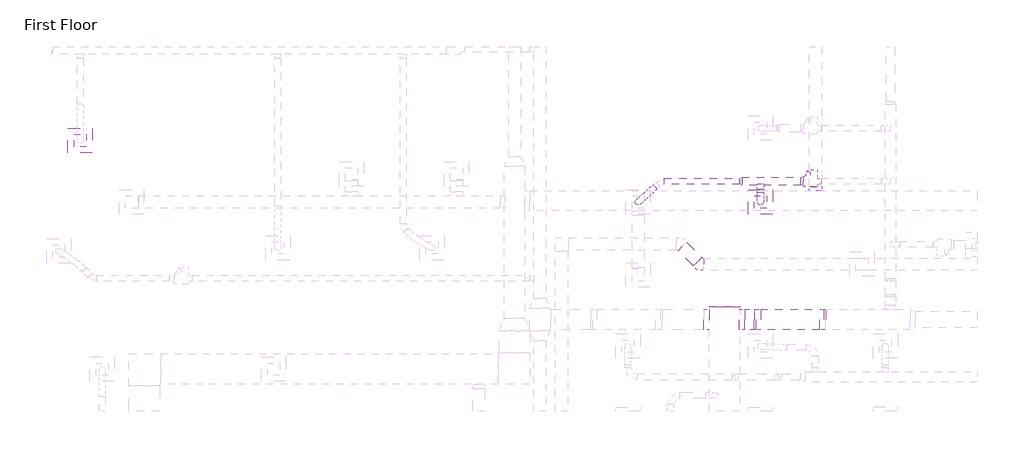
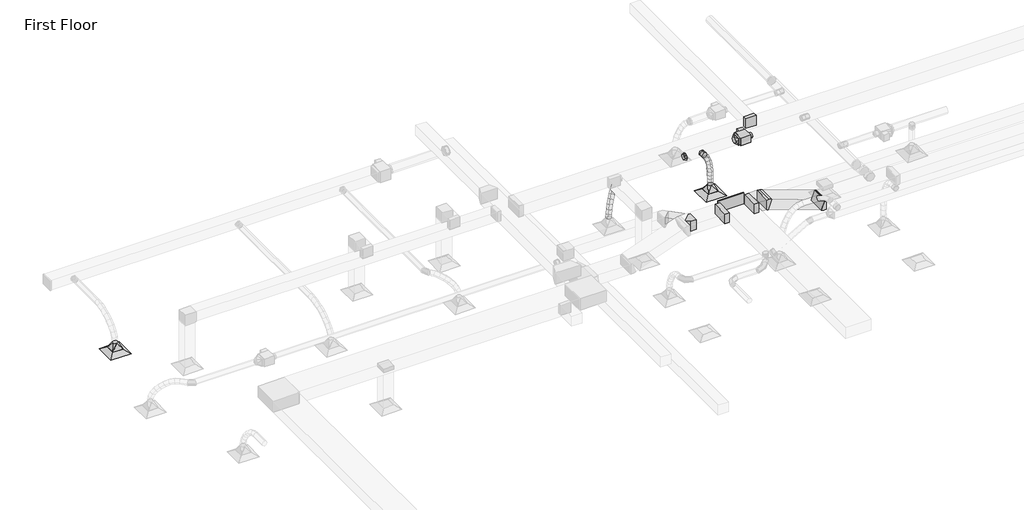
# One storey, part 41 of 61: 12 duct fittings, 8 duct segments, 2 air terminals, 1 proxy.
"""IFC4 building model written with IfcOpenShell, lengths in millimetres."""

from ifc_helpers import new_model, si_unit, point, frame, frame_2d, origin, place, context, project, spatial, polyline, circle_curve, ellipse_curve, trimmed, segment, composite_curve, outline, extrude, transform, mapped, element, save
from ifc_brep_helpers import plane_surface, cylinder_surface, advanced_brep
from components import m_exhaust_grill_er_600_x_600_face_300_x_300_connection_ff221211, m_vav_unit_single_duct_150_mm_ffdab17b, m_rectangular_elbow_mitered_standard_b81e202c, m_rectangular_elbow_mitered_standard_04b63b93, m_rectangular_endcap_standard_e95da84c, m_rectangular_takeoff_standard_b44bfa45, m_rectangular_takeoff_standard_494111d8, m_rectangular_takeoff_standard_a06ee614, m_rectangular_to_round_transition_angle_45_degree_8f201c83, m_rectangular_to_round_transition_angle_45_degree_1b7ae117, m_round_takeoff_standard_e1559ea3, m_round_transition_angle_45_degree_6d7b59ce

model = new_model("IFC4")

# Units and contexts
model_context = context("Model", 3, world=origin())
ifc_project = project(units=[si_unit("LENGTHUNIT", "METRE", prefix="MILLI")], contexts=[model_context])

# Site, building, storey
site = spatial("IfcSite", under=ifc_project)
building = spatial("IfcBuilding", under=site)
storey = spatial("IfcBuildingStorey", under=building, Name="First Floor", Elevation=0.0)

# Air terminals
placement = place(None, origin())
m_exhaust_grill_er_600_x_600_face_300_x_300_connection_shape = m_exhaust_grill_er_600_x_600_face_300_x_300_connection_ff221211(model_context)
element("IfcAirTerminal", 1, ObjectType="M_Supply Diffuser : SD-600 x 600 Face 300 x 300 Connection", at=placement, inside=storey, context=model_context, shape_type="MappedRepresentation", body=[
    mapped(m_exhaust_grill_er_600_x_600_face_300_x_300_connection_shape, transform((-50782.0764133, 48691.5172332, 2680.0), x_axis=(1.0, 0.0, 0.0), y_axis=(0.0, 1.0, 0.0), z_axis=(0.0, 0.0, 1.0))),
])
element("IfcAirTerminal", 2, ObjectType="M_Supply Diffuser : SD-600 x 600 Face 300 x 300 Connection", at=placement, inside=storey, context=model_context, shape_type="MappedRepresentation", body=[
    mapped(m_exhaust_grill_er_600_x_600_face_300_x_300_connection_shape, transform((-34106.7085824, 47182.8147474, 2680.0), x_axis=(1.0, 0.0, 0.0), y_axis=(0.0, 1.0, 0.0), z_axis=(0.0, 0.0, 1.0))),
])

# Proxy
m_vav_unit_single_duct_150_mm_shape = m_vav_unit_single_duct_150_mm_ffdab17b(model_context)
element("IfcBuildingElementProxy", 3, Name="M_VAV Unit - Single Duct : 150 mm", ObjectType="M_VAV Unit - Single Duct : 150 mm", at=placement, inside=storey, context=model_context, shape_type="MappedRepresentation", body=[
    mapped(m_vav_unit_single_duct_150_mm_shape, transform((-32714.1170835, 47690.9394014, 3550.1), x_axis=(-1.0000000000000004, 0.0, 0.0), y_axis=(0.0, -1.0000000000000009, 0.0), z_axis=(0.0, 0.0, 1.0000000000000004))),
])

# Duct fittings
m_rectangular_elbow_mitered_standard_shape = m_rectangular_elbow_mitered_standard_b81e202c(model_context)
element("IfcDuctFitting", 4, ObjectType="M_Rectangular Elbow - Mitered : Standard", at=placement, inside=storey, context=model_context, shape_type="MappedRepresentation", body=[
    mapped(m_rectangular_elbow_mitered_standard_shape, transform((-35586.3948532, 45658.3786762, 3200.0), x_axis=(0.7071067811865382, -0.7071067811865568, 0.0), y_axis=(0.7071067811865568, 0.7071067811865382, 0.0), z_axis=(0.0, 0.0, 1.0))),
])
m_rectangular_elbow_mitered_standard_2_shape = m_rectangular_elbow_mitered_standard_04b63b93(model_context)
element("IfcDuctFitting", 5, ObjectType="M_Rectangular Elbow - Mitered : Standard", at=placement, inside=storey, context=model_context, shape_type="MappedRepresentation", body=[
    mapped(m_rectangular_elbow_mitered_standard_2_shape, transform((-32554.8277616, 44299.674982, 3659.6), x_axis=(-1.0, 0.0, 0.0), y_axis=(0.0, 0.0, 1.0), z_axis=(0.0, 1.0, 0.0))),
])
element("IfcDuctFitting", 6, ObjectType="M_Rectangular Elbow - Mitered : Standard", at=placement, inside=storey, context=model_context, shape_type="MappedRepresentation", body=[
    mapped(m_rectangular_elbow_mitered_standard_2_shape, transform((-34203.0394655, 44299.674982, 4259.5), x_axis=(-0.9396926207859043, 0.0, 0.34202014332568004), y_axis=(-0.34202014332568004, 0.0, -0.9396926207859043), z_axis=(0.0, -1.0, 0.0))),
])
m_rectangular_endcap_standard_shape = m_rectangular_endcap_standard_e95da84c(model_context)
element("IfcDuctFitting", 7, ObjectType="M_Rectangular Endcap : Standard", at=placement, inside=storey, context=model_context, shape_type="MappedRepresentation", body=[
    mapped(m_rectangular_endcap_standard_shape, transform((-34991.1904063, 44599.674982, 4259.5), x_axis=(0.0, 1.0, 0.0), y_axis=(-1.0, 0.0, 0.0), z_axis=(0.0, 0.0, 1.0))),
])
m_rectangular_takeoff_standard_shape = m_rectangular_takeoff_standard_b44bfa45(model_context)
element("IfcDuctFitting", 8, ObjectType="M_Rectangular Takeoff : Standard", at=placement, inside=storey, context=model_context, shape_type="MappedRepresentation", body=[
    mapped(m_rectangular_takeoff_standard_shape, transform((-32756.4805906, 47461.3321421, 4259.5), x_axis=(0.0, 1.0, 0.0), y_axis=(1.0, 0.0, 0.0), z_axis=(0.0, 0.0, -1.0))),
])
m_rectangular_takeoff_standard_2_shape = m_rectangular_takeoff_standard_494111d8(model_context)
element("IfcDuctFitting", 9, ObjectType="M_Rectangular Takeoff : Standard", at=placement, inside=storey, context=model_context, shape_type="MappedRepresentation", body=[
    mapped(m_rectangular_takeoff_standard_2_shape, transform((-34616.1904063, 44299.674982, 4259.5), x_axis=(1.0, 0.0, 0.0), y_axis=(0.0, -1.0, 0.0), z_axis=(0.0, 0.0, -1.0))),
])
m_rectangular_takeoff_standard_3_shape = m_rectangular_takeoff_standard_a06ee614(model_context)
element("IfcDuctFitting", 10, ObjectType="M_Rectangular Takeoff : Standard", at=placement, inside=storey, context=model_context, shape_type="MappedRepresentation", body=[
    mapped(m_rectangular_takeoff_standard_3_shape, transform((-35366.1904063, 44299.674982, 4259.5), x_axis=(-1.0, 0.0, 0.0), y_axis=(0.0, 1.0, 0.0), z_axis=(0.0, 0.0, -1.0))),
])
m_rectangular_to_round_transition_angle_45_degree_shape = m_rectangular_to_round_transition_angle_45_degree_8f201c83(model_context)
element("IfcDuctFitting", 11, ObjectType="M_Rectangular to Round Transition - Angle : 45 Degree", at=placement, inside=storey, context=model_context, shape_type="MappedRepresentation", body=[
    mapped(m_rectangular_to_round_transition_angle_45_degree_shape, transform((-50782.0764133, 48691.5172332, 2781.6), x_axis=(0.0, 0.0, 1.0), y_axis=(1.0, 0.0, 0.0), z_axis=(0.0, 1.0, 0.0))),
])
element("IfcDuctFitting", 12, ObjectType="M_Rectangular to Round Transition - Angle : 45 Degree", at=placement, inside=storey, context=model_context, shape_type="MappedRepresentation", body=[
    mapped(m_rectangular_to_round_transition_angle_45_degree_shape, transform((-34106.7085824, 47182.8147474, 2781.6), x_axis=(0.0, 0.0, 1.0), y_axis=(1.0, 0.0, 0.0), z_axis=(0.0, 1.0, 0.0))),
])
m_rectangular_to_round_transition_angle_45_degree_2_shape = m_rectangular_to_round_transition_angle_45_degree_1b7ae117(model_context)
element("IfcDuctFitting", 13, ObjectType="M_Rectangular to Round Transition - Angle : 45 Degree", at=placement, inside=storey, context=model_context, shape_type="MappedRepresentation", body=[
    mapped(m_rectangular_to_round_transition_angle_45_degree_2_shape, transform((-33056.9170835, 47690.9394014, 3669.15), x_axis=(-1.0, 0.0, 0.0), y_axis=(0.0, -1.0, 0.0), z_axis=(0.0, 0.0, 1.0))),
])
m_round_takeoff_standard_shape = m_round_takeoff_standard_e1559ea3(model_context)
element("IfcDuctFitting", 14, ObjectType="M_Round Takeoff : Standard", at=placement, inside=storey, context=model_context, shape_type="MappedRepresentation", body=[
    mapped(m_round_takeoff_standard_shape, transform((-34106.7085824, 47590.9394014, 3669.2), x_axis=(0.0, -1.0, 0.0), y_axis=(-1.0, 0.0, 0.0), z_axis=(0.0, 0.0, -1.0))),
])
m_round_transition_angle_45_degree_shape = m_round_transition_angle_45_degree_6d7b59ce(model_context)
element("IfcDuctFitting", 15, ObjectType="M_Round Transition - Angle : 45 Degree", at=placement, inside=storey, context=model_context, shape_type="MappedRepresentation", body=[
    mapped(m_round_transition_angle_45_degree_shape, transform((-34556.9170835, 47690.9394014, 3669.2), x_axis=(-1.0, 0.0, 0.0), y_axis=(0.0, -1.0, 0.0), z_axis=(0.0, 0.0, 1.0))),
])

# Duct segments
element("IfcDuctSegment", 16, ObjectType="Flex - Round", at=placement, inside=storey, context=model_context, shape_type="AdvancedBrep", body=[
    advanced_brep(
    [(-36645.8787764, 47495.9178238, 3669.2), (-36689.5320936, 47558.1370012, 3595.2191791), (-36750.798103, 47603.1182665, 3669.2), (-36707.1447858, 47540.8990892, 3743.1808209), (-36724.2138554, 47419.2496354, 3650.9433013), (-36759.572757, 47489.5867317, 3578.8955689), (-36828.187112, 47527.3760167, 3651.1637915), (-36792.8282104, 47457.0389204, 3723.2115238), (-37052.7680984, 47127.6708785, 2962.2040431), (-37158.455536, 47132.1876962, 2969.9347541), (-37154.4330443, 47237.9586163, 2963.1279913), (-37048.7456067, 47233.4417986, 2955.3972802), (-36799.2216585, 47348.6524833, 3600.0730057), (-36820.9261826, 47431.8410448, 3537.2856728), (-36901.7440227, 47458.1444408, 3601.2774911), (-36880.0394986, 47374.9558794, 3664.064824), (-36868.2221398, 47285.8629318, 3523.1146906), (-36880.6561104, 47377.4875777, 3470.6670852), (-36969.9559173, 47396.0724929, 3525.1987105), (-36957.5219467, 47304.447847, 3577.6463159), (-36929.2270396, 47231.9571342, 3426.2754661), (-36935.4224664, 47329.0943486, 3383.7309301), (-37030.618092, 47342.4695379, 3428.9035283), (-37024.4226652, 47245.3323235, 3471.4480643), (-36980.2240833, 47188.0437851, 3315.680419), (-36982.0549487, 47288.9393056, 3282.6011152), (-37081.5498577, 47298.6123993, 3318.4500466), (-37079.7189923, 47197.7168788, 3351.5293504), (-37019.170519, 47155.2644973, 3197.4496226), (-37017.8267688, 47258.8319347, 3174.0075891), (-37120.6010028, 47265.7449828, 3199.9013808), (-37121.9447529, 47162.1775454, 3223.3434143), (-37044.0137336, 47134.7729014, 3077.7364736), (-37040.4360887, 47240.1829372, 3065.0590123), (-37145.6311766, 47245.0991761, 3079.2873231), (-37149.2088215, 47139.6891403, 3091.9647844)],
    [
        (0, 1, circle_curve(frame((-36698.3384397, 47549.5180452, 3669.2), z_axis=(0.704957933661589, 0.6899571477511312, 0.16429682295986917), x_axis=(0.6994621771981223, -0.7146696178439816, 0.0)), 75.0)),
        (1, 2, circle_curve(frame((-36698.3384397, 47549.5180452, 3669.2), z_axis=(0.704957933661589, 0.6899571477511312, 0.16429682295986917), x_axis=(0.6994621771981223, -0.7146696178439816, 0.0)), 75.0)),
        (2, 3, circle_curve(frame((-36698.3384397, 47549.5180452, 3669.2), z_axis=(0.704957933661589, 0.6899571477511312, 0.16429682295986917), x_axis=(0.6994621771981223, -0.7146696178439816, 0.0)), 75.0)),
        (3, 0, circle_curve(frame((-36698.3384397, 47549.5180452, 3669.2), z_axis=(0.704957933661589, 0.6899571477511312, 0.16429682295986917), x_axis=(0.6994621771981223, -0.7146696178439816, 0.0)), 75.0)),
        (0, 4),
        (4, 5, ellipse_curve(frame((-36776.2004837, 47473.3128261, 3651.0535464), z_axis=(0.6863497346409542, 0.6593613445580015, 0.30686586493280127), x_axis=(0.17751444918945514, 0.2572962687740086, -0.949888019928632)), 75.8191616, 75.0)),
        (5, 1),
        (5, 6, ellipse_curve(frame((-36776.2004837, 47473.3128261, 3651.0535464), z_axis=(0.6863497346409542, 0.6593613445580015, 0.30686586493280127), x_axis=(0.17751444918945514, 0.2572962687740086, -0.949888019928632)), 75.8191616, 75.0)),
        (6, 2),
        (6, 7, ellipse_curve(frame((-36776.2004837, 47473.3128261, 3651.0535464), z_axis=(0.6863497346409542, 0.6593613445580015, 0.30686586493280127), x_axis=(0.17751444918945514, 0.2572962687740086, -0.949888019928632)), 75.8191616, 75.0)),
        (7, 3),
        (7, 4, ellipse_curve(frame((-36776.2004837, 47473.3128261, 3651.0535464), z_axis=(0.6863497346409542, 0.6593613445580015, 0.30686586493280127), x_axis=(0.17751444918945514, 0.2572962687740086, -0.949888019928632)), 75.8191616, 75.0)),
        (8, 9, circle_curve(frame((-37103.6005714, 47182.8147474, 2962.6660172), z_axis=(-0.07541594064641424, -0.061181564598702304, -0.9952734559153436), x_axis=(0.6777663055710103, -0.7352515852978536, -0.006159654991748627)), 75.0)),
        (9, 10, circle_curve(frame((-37103.6005714, 47182.8147474, 2962.6660172), z_axis=(-0.07541594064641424, -0.061181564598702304, -0.9952734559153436), x_axis=(0.6777663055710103, -0.7352515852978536, -0.006159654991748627)), 75.0)),
        (10, 11, circle_curve(frame((-37103.6005714, 47182.8147474, 2962.6660172), z_axis=(-0.07541594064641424, -0.061181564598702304, -0.9952734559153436), x_axis=(0.6777663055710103, -0.7352515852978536, -0.006159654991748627)), 75.0)),
        (11, 8, circle_curve(frame((-37103.6005714, 47182.8147474, 2962.6660172), z_axis=(-0.07541594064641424, -0.061181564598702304, -0.9952734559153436), x_axis=(0.6777663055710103, -0.7352515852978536, -0.006159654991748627)), 75.0)),
        (4, 12),
        (12, 13, ellipse_curve(frame((-36850.4828406, 47403.3984621, 3600.6752484), z_axis=(0.6158448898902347, 0.5706683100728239, 0.5432059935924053), x_axis=(0.3566835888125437, 0.41281763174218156, -0.8380682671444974)), 75.5050231, 75.0)),
        (13, 5),
        (13, 14, ellipse_curve(frame((-36850.4828406, 47403.3984621, 3600.6752484), z_axis=(0.6158448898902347, 0.5706683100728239, 0.5432059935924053), x_axis=(0.3566835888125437, 0.41281763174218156, -0.8380682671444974)), 75.5050231, 75.0)),
        (14, 6),
        (14, 15, ellipse_curve(frame((-36850.4828406, 47403.3984621, 3600.6752484), z_axis=(0.6158448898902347, 0.5706683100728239, 0.5432059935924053), x_axis=(0.3566835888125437, 0.41281763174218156, -0.8380682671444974)), 75.5050231, 75.0)),
        (15, 7),
        (15, 12, ellipse_curve(frame((-36850.4828406, 47403.3984621, 3600.6752484), z_axis=(0.6158448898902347, 0.5706683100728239, 0.5432059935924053), x_axis=(0.3566835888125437, 0.41281763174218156, -0.8380682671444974)), 75.5050231, 75.0)),
        (12, 16),
        (16, 17, ellipse_curve(frame((-36919.0890286, 47340.9677124, 3524.1567006), z_axis=(0.5285678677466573, 0.4746088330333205, 0.7038199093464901), x_axis=(0.48523888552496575, 0.5113761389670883, -0.7092514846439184)), 75.3126265, 75.0)),
        (17, 13),
        (17, 18, ellipse_curve(frame((-36919.0890286, 47340.9677124, 3524.1567006), z_axis=(0.5285678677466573, 0.4746088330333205, 0.7038199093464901), x_axis=(0.48523888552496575, 0.5113761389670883, -0.7092514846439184)), 75.3126265, 75.0)),
        (18, 14),
        (18, 19, ellipse_curve(frame((-36919.0890286, 47340.9677124, 3524.1567006), z_axis=(0.5285678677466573, 0.4746088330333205, 0.7038199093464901), x_axis=(0.48523888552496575, 0.5113761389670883, -0.7092514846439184)), 75.3126265, 75.0)),
        (19, 15),
        (19, 16, ellipse_curve(frame((-36919.0890286, 47340.9677124, 3524.1567006), z_axis=(0.5285678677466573, 0.4746088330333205, 0.7038199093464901), x_axis=(0.48523888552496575, 0.5113761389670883, -0.7092514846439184)), 75.3126265, 75.0)),
        (16, 20),
        (20, 21, ellipse_curve(frame((-36979.9225658, 47287.213336, 3427.5894972), z_axis=(0.43933908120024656, 0.3837621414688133, 0.8122239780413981), x_axis=(0.5792404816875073, 0.5700714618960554, -0.5826654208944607)), 75.2187667, 75.0)),
        (21, 17),
        (21, 22, ellipse_curve(frame((-36979.9225658, 47287.213336, 3427.5894972), z_axis=(0.43933908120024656, 0.3837621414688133, 0.8122239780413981), x_axis=(0.5792404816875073, 0.5700714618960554, -0.5826654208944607)), 75.2187667, 75.0)),
        (22, 18),
        (22, 23, ellipse_curve(frame((-36979.9225658, 47287.213336, 3427.5894972), z_axis=(0.43933908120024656, 0.3837621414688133, 0.8122239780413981), x_axis=(0.5792404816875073, 0.5700714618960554, -0.5826654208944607)), 75.2187667, 75.0)),
        (23, 19),
        (23, 20, ellipse_curve(frame((-36979.9225658, 47287.213336, 3427.5894972), z_axis=(0.43933908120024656, 0.3837621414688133, 0.8122239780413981), x_axis=(0.5792404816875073, 0.5700714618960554, -0.5826654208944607)), 75.2187667, 75.0)),
        (20, 24),
        (24, 25, ellipse_curve(frame((-37030.8869705, 47243.3280922, 3317.0652328), z_axis=(0.3490941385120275, 0.2976546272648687, 0.888557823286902), x_axis=(0.6522423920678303, 0.6036472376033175, -0.45846469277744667)), 75.1846062, 75.0)),
        (25, 21),
        (25, 26, ellipse_curve(frame((-37030.8869705, 47243.3280922, 3317.0652328), z_axis=(0.3490941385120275, 0.2976546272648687, 0.888557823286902), x_axis=(0.6522423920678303, 0.6036472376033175, -0.45846469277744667)), 75.1846062, 75.0)),
        (26, 22),
        (26, 27, ellipse_curve(frame((-37030.8869705, 47243.3280922, 3317.0652328), z_axis=(0.3490941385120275, 0.2976546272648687, 0.888557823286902), x_axis=(0.6522423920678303, 0.6036472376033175, -0.45846469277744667)), 75.1846062, 75.0)),
        (27, 23),
        (27, 24, ellipse_curve(frame((-37030.8869705, 47243.3280922, 3317.0652328), z_axis=(0.3490941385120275, 0.2976546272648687, 0.888557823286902), x_axis=(0.6522423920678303, 0.6036472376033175, -0.45846469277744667)), 75.1846062, 75.0)),
        (24, 28),
        (28, 29, ellipse_curve(frame((-37069.8857609, 47210.5047401, 3198.6755017), z_axis=(0.25212983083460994, 0.21051610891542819, 0.9445176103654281), x_axis=(0.7109714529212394, 0.6218389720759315, -0.32838374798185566)), 75.1943167, 75.0)),
        (29, 25),
        (29, 30, ellipse_curve(frame((-37069.8857609, 47210.5047401, 3198.6755017), z_axis=(0.25212983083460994, 0.21051610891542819, 0.9445176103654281), x_axis=(0.7109714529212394, 0.6218389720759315, -0.32838374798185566)), 75.1943167, 75.0)),
        (30, 26),
        (30, 31, ellipse_curve(frame((-37069.8857609, 47210.5047401, 3198.6755017), z_axis=(0.25212983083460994, 0.21051610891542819, 0.9445176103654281), x_axis=(0.7109714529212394, 0.6218389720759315, -0.32838374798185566)), 75.1943167, 75.0)),
        (31, 27),
        (31, 28, ellipse_curve(frame((-37069.8857609, 47210.5047401, 3198.6755017), z_axis=(0.25212983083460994, 0.21051610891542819, 0.9445176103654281), x_axis=(0.7109714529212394, 0.6218389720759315, -0.32838374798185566)), 75.1943167, 75.0)),
        (28, 32),
        (32, 33, ellipse_curve(frame((-37094.8224551, 47189.9360387, 3078.5118983), z_axis=(0.1383808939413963, 0.11362774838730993, 0.9838391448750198), x_axis=(0.7559187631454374, 0.6297045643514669, -0.17905023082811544)), 75.2576042, 75.0)),
        (33, 29),
        (33, 34, ellipse_curve(frame((-37094.8224551, 47189.9360387, 3078.5118983), z_axis=(0.1383808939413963, 0.11362774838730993, 0.9838391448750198), x_axis=(0.7559187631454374, 0.6297045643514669, -0.17905023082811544)), 75.2576042, 75.0)),
        (34, 30),
        (34, 35, ellipse_curve(frame((-37094.8224551, 47189.9360387, 3078.5118983), z_axis=(0.1383808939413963, 0.11362774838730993, 0.9838391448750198), x_axis=(0.7559187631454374, 0.6297045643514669, -0.17905023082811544)), 75.2576042, 75.0)),
        (35, 31),
        (35, 32, ellipse_curve(frame((-37094.8224551, 47189.9360387, 3078.5118983), z_axis=(0.1383808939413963, 0.11362774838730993, 0.9838391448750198), x_axis=(0.7559187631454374, 0.6297045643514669, -0.17905023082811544)), 75.2576042, 75.0)),
        (32, 8),
        (11, 33),
        (10, 34),
        (9, 35),
    ],
    [
        plane_surface(frame((-36698.3384397, 47566.8917174, 3596.2400417), z_axis=(0.7049579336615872, 0.6899571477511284, 0.1642968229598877), x_axis=(0.7092491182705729, -0.6857826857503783, -0.16330277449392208))),
        cylinder_surface(frame((-36698.3384397, 47549.5180452, 3669.2), z_axis=(0.7049579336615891, 0.6899571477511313, 0.1642968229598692), x_axis=(0.6994621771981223, -0.7146696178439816, 0.0)), 75.0),
        plane_surface(frame((-37103.6005714, 47257.673442, 2958.0642949), z_axis=(-0.07541594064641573, -0.06118156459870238, -0.9952734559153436), x_axis=(0.9971521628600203, -0.004627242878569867, -0.07527385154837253))),
        cylinder_surface(frame((-36776.2004837, 47473.3128261, 3651.0535464), z_axis=(0.6529106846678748, 0.6145178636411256, 0.44280405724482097), x_axis=(0.6873135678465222, -0.7263405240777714, -0.005431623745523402)), 75.0),
        cylinder_surface(frame((-36850.4828406, 47403.3984621, 3600.6752484), z_axis=(0.5705408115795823, 0.5191848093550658, 0.6363413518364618), x_axis=(0.6801346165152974, -0.7329928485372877, -0.011763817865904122)), 75.0),
        cylinder_surface(frame((-36919.0890286, 47340.9677124, 3524.1567006), z_axis=(0.4822066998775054, 0.4260926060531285, 0.7654552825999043), x_axis=(0.676611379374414, -0.7361564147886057, -0.016455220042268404)), 75.0),
        cylinder_surface(frame((-36979.9225658, 47287.213336, 3427.5894972), z_axis=(0.39391590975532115, 0.3391994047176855, 0.8542681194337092), x_axis=(0.6753921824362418, -0.7372213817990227, -0.018709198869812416)), 75.0),
        cylinder_surface(frame((-37030.8869705, 47243.3280922, 3317.0652328), z_axis=(0.30255805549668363, 0.25464814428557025, 0.9184840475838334), x_axis=(0.6755919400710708, -0.7370510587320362, -0.01820075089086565)), 75.0),
        cylinder_surface(frame((-37069.8857609, 47210.5047401, 3198.6755017), z_axis=(0.20039850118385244, 0.16529604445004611, 0.9656695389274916), x_axis=(0.6766081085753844, -0.7362026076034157, -0.014394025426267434)), 75.0),
        cylinder_surface(frame((-37094.8224551, 47189.9360387, 3078.5118983), z_axis=(0.07541594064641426, 0.06118156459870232, 0.9952734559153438), x_axis=(0.6777663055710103, -0.7352515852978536, -0.006159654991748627)), 75.0),
    ],
    [
        (0, [[1, 2, 3, 4]]),
        (1, [[-1, 5, 6, 7]]),
        (1, [[-2, -7, 8, 9]]),
        (1, [[-3, -9, 10, 11]]),
        (1, [[-4, -11, 12, -5]]),
        (2, [[13, 14, 15, 16]]),
        (3, [[-6, 17, 18, 19]]),
        (3, [[-8, -19, 20, 21]]),
        (3, [[-10, -21, 22, 23]]),
        (3, [[-12, -23, 24, -17]]),
        (4, [[-18, 25, 26, 27]]),
        (4, [[-20, -27, 28, 29]]),
        (4, [[-22, -29, 30, 31]]),
        (4, [[-24, -31, 32, -25]]),
        (5, [[-26, 33, 34, 35]]),
        (5, [[-28, -35, 36, 37]]),
        (5, [[-30, -37, 38, 39]]),
        (5, [[-32, -39, 40, -33]]),
        (6, [[-34, 41, 42, 43]]),
        (6, [[-36, -43, 44, 45]]),
        (6, [[-38, -45, 46, 47]]),
        (6, [[-40, -47, 48, -41]]),
        (7, [[-42, 49, 50, 51]]),
        (7, [[-44, -51, 52, 53]]),
        (7, [[-46, -53, 54, 55]]),
        (7, [[-48, -55, 56, -49]]),
        (8, [[-50, 57, 58, 59]]),
        (8, [[-52, -59, 60, 61]]),
        (8, [[-54, -61, 62, 63]]),
        (8, [[-56, -63, 64, -57]]),
        (9, [[-58, 65, -16, 66]]),
        (9, [[-60, -66, -15, 67]]),
        (9, [[-62, -67, -14, 68]]),
        (9, [[-64, -68, -13, -65]]),
    ],
),
])
element("IfcDuctSegment", 17, ObjectType="Flex - Round", at=placement, inside=storey, context=model_context, shape_type="AdvancedBrep", body=[
    advanced_brep(
    [(-34031.7085824, 47407.8147474, 3669.2), (-34106.7085824, 47423.999953, 3595.9672265), (-34181.7085824, 47407.8147474, 3669.2), (-34106.7085824, 47391.6295418, 3742.4327735), (-34031.7085824, 47335.0017176, 3653.1075621), (-34106.7085824, 47368.3894683, 3583.6767302), (-34181.7085824, 47335.0017176, 3653.1075621), (-34106.7085824, 47301.6139669, 3722.538394), (-34031.7085824, 47182.8147474, 2962.6660172), (-34106.7085824, 47107.8155806, 2962.3124813), (-34181.7085824, 47182.8147474, 2962.6660172), (-34106.7085824, 47257.8139141, 2963.0195531), (-34031.7085824, 47279.7399344, 3608.5151465), (-34106.7085824, 47337.3421295, 3558.6236871), (-34181.7085824, 47279.7399344, 3608.5151465), (-34106.7085824, 47222.1377393, 3658.4066058), (-34031.7085824, 47239.6302596, 3540.9501002), (-34106.7085824, 47308.4359701, 3509.931046), (-34181.7085824, 47239.6302596, 3540.9501002), (-34106.7085824, 47170.8245491, 3571.9691544), (-34031.7085824, 47212.273555, 3455.9397704), (-34106.7085824, 47285.2520769, 3437.8876318), (-34181.7085824, 47212.273555, 3455.9397704), (-34106.7085824, 47139.295033, 3473.991909), (-34031.7085824, 47195.2706824, 3359.0115042), (-34106.7085824, 47269.7022191, 3349.2425663), (-34181.7085824, 47195.2706824, 3359.0115042), (-34106.7085824, 47120.8391456, 3368.7804421), (-34031.7085824, 47186.2225035, 3255.6926487), (-34106.7085824, 47261.112729, 3251.1613614), (-34181.7085824, 47186.2225035, 3255.6926487), (-34106.7085824, 47111.3322779, 3260.2239359), (-34031.7085824, 47182.7298802, 3151.5105509), (-34106.7085824, 47257.7256344, 3150.1270974), (-34181.7085824, 47182.7298802, 3151.5105509), (-34106.7085824, 47107.734126, 3152.8940044), (-34031.7085824, 47182.3936742, 3051.992558), (-34106.7085824, 47257.3942714, 3052.0426396), (-34181.7085824, 47182.3936742, 3051.992558), (-34106.7085824, 47107.393077, 3051.9424764)],
    [
        (0, 1, circle_curve(frame((-34106.7085824, 47407.8147474, 3669.2), z_axis=(0.0, 0.9764369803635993, 0.2158027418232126), x_axis=(1.0, 0.0, 0.0)), 75.0)),
        (1, 2, circle_curve(frame((-34106.7085824, 47407.8147474, 3669.2), z_axis=(0.0, 0.9764369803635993, 0.2158027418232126), x_axis=(1.0, 0.0, 0.0)), 75.0)),
        (2, 3, circle_curve(frame((-34106.7085824, 47407.8147474, 3669.2), z_axis=(0.0, 0.9764369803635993, 0.2158027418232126), x_axis=(1.0, 0.0, 0.0)), 75.0)),
        (3, 0, circle_curve(frame((-34106.7085824, 47407.8147474, 3669.2), z_axis=(0.0, 0.9764369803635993, 0.2158027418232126), x_axis=(1.0, 0.0, 0.0)), 75.0)),
        (0, 4),
        (4, 5, ellipse_curve(frame((-34106.7085824, 47335.0017176, 3653.1075621), z_axis=(0.0, 0.901214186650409, 0.4333739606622), x_axis=(0.0, 0.4333739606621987, -0.9012141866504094)), 77.0414325, 75.0)),
        (5, 1),
        (5, 6, ellipse_curve(frame((-34106.7085824, 47335.0017176, 3653.1075621), z_axis=(0.0, 0.901214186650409, 0.4333739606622), x_axis=(0.0, 0.4333739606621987, -0.9012141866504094)), 77.0414325, 75.0)),
        (6, 2),
        (6, 7, ellipse_curve(frame((-34106.7085824, 47335.0017176, 3653.1075621), z_axis=(0.0, 0.901214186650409, 0.4333739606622), x_axis=(0.0, 0.4333739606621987, -0.9012141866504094)), 77.0414325, 75.0)),
        (7, 3),
        (7, 4, ellipse_curve(frame((-34106.7085824, 47335.0017176, 3653.1075621), z_axis=(0.0, 0.901214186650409, 0.4333739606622), x_axis=(0.0, 0.4333739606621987, -0.9012141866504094)), 77.0414325, 75.0)),
        (8, 9, circle_curve(frame((-34106.7085824, 47182.8147474, 2962.6660172), z_axis=(1.084438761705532e-12, 0.0047138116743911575, -0.9999888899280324), x_axis=(1.0, 0.0, 1.0824148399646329e-12)), 75.0)),
        (9, 10, circle_curve(frame((-34106.7085824, 47182.8147474, 2962.6660172), z_axis=(1.084438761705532e-12, 0.0047138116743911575, -0.9999888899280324), x_axis=(1.0, 0.0, 1.0824148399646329e-12)), 75.0)),
        (10, 11, circle_curve(frame((-34106.7085824, 47182.8147474, 2962.6660172), z_axis=(1.084438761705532e-12, 0.0047138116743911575, -0.9999888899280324), x_axis=(1.0, 0.0, 1.0824148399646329e-12)), 75.0)),
        (11, 8, circle_curve(frame((-34106.7085824, 47182.8147474, 2962.6660172), z_axis=(1.084438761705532e-12, 0.0047138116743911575, -0.9999888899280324), x_axis=(1.0, 0.0, 1.0824148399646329e-12)), 75.0)),
        (4, 12),
        (12, 13, ellipse_curve(frame((-34106.7085824, 47279.7399344, 3608.5151465), z_axis=(0.0, 0.6547023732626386, 0.7558867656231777), x_axis=(1.0829292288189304e-12, 0.755886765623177, -0.6547023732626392)), 76.2047938, 75.0)),
        (13, 5),
        (13, 14, ellipse_curve(frame((-34106.7085824, 47279.7399344, 3608.5151465), z_axis=(0.0, 0.6547023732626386, 0.7558867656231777), x_axis=(1.0829292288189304e-12, 0.755886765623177, -0.6547023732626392)), 76.2047938, 75.0)),
        (14, 6),
        (14, 15, ellipse_curve(frame((-34106.7085824, 47279.7399344, 3608.5151465), z_axis=(0.0, 0.6547023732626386, 0.7558867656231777), x_axis=(1.0829292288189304e-12, 0.755886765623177, -0.6547023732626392)), 76.2047938, 75.0)),
        (15, 7),
        (15, 12, ellipse_curve(frame((-34106.7085824, 47279.7399344, 3608.5151465), z_axis=(0.0, 0.6547023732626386, 0.7558867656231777), x_axis=(1.0829292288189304e-12, 0.755886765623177, -0.6547023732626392)), 76.2047938, 75.0)),
        (12, 16),
        (16, 17, ellipse_curve(frame((-34106.7085824, 47239.6302596, 3540.9501002), z_axis=(0.0, 0.4109869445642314, 0.9116412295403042), x_axis=(1.1717526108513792e-12, 0.911641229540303, -0.4109869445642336)), 75.4745488, 75.0)),
        (17, 13),
        (17, 18, ellipse_curve(frame((-34106.7085824, 47239.6302596, 3540.9501002), z_axis=(0.0, 0.4109869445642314, 0.9116412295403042), x_axis=(1.1717526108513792e-12, 0.911641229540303, -0.4109869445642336)), 75.4745488, 75.0)),
        (18, 14),
        (18, 19, ellipse_curve(frame((-34106.7085824, 47239.6302596, 3540.9501002), z_axis=(0.0, 0.4109869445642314, 0.9116412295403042), x_axis=(1.1717526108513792e-12, 0.911641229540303, -0.4109869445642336)), 75.4745488, 75.0)),
        (19, 15),
        (19, 16, ellipse_curve(frame((-34106.7085824, 47239.6302596, 3540.9501002), z_axis=(0.0, 0.4109869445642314, 0.9116412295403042), x_axis=(1.1717526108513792e-12, 0.911641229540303, -0.4109869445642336)), 75.4745488, 75.0)),
        (16, 20),
        (20, 21, ellipse_curve(frame((-34106.7085824, 47212.273555, 3455.9397704), z_axis=(-1.1487213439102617e-12, 0.24012501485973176, 0.9707419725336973), x_axis=(0.0, 0.970741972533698, -0.2401250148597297)), 75.1780844, 75.0)),
        (21, 17),
        (21, 22, ellipse_curve(frame((-34106.7085824, 47212.273555, 3455.9397704), z_axis=(-1.1487213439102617e-12, 0.24012501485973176, 0.9707419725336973), x_axis=(0.0, 0.970741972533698, -0.2401250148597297)), 75.1780844, 75.0)),
        (22, 18),
        (22, 23, ellipse_curve(frame((-34106.7085824, 47212.273555, 3455.9397704), z_axis=(-1.1487213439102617e-12, 0.24012501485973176, 0.9707419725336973), x_axis=(0.0, 0.970741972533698, -0.2401250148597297)), 75.1780844, 75.0)),
        (23, 19),
        (23, 20, ellipse_curve(frame((-34106.7085824, 47212.273555, 3455.9397704), z_axis=(-1.1487213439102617e-12, 0.24012501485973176, 0.9707419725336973), x_axis=(0.0, 0.970741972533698, -0.2401250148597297)), 75.1780844, 75.0)),
        (20, 24),
        (24, 25, ellipse_curve(frame((-34106.7085824, 47195.2706824, 3359.0115042), z_axis=(-1.2448283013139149e-12, 0.13013126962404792, 0.991496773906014), x_axis=(0.0, 0.9914967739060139, -0.13013126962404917)), 75.0698729, 75.0)),
        (25, 21),
        (25, 26, ellipse_curve(frame((-34106.7085824, 47195.2706824, 3359.0115042), z_axis=(-1.2448283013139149e-12, 0.13013126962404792, 0.991496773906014), x_axis=(0.0, 0.9914967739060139, -0.13013126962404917)), 75.0698729, 75.0)),
        (26, 22),
        (26, 27, ellipse_curve(frame((-34106.7085824, 47195.2706824, 3359.0115042), z_axis=(-1.2448283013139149e-12, 0.13013126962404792, 0.991496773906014), x_axis=(0.0, 0.9914967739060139, -0.13013126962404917)), 75.0698729, 75.0)),
        (27, 23),
        (27, 24, ellipse_curve(frame((-34106.7085824, 47195.2706824, 3359.0115042), z_axis=(-1.2448283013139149e-12, 0.13013126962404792, 0.991496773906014), x_axis=(0.0, 0.9914967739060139, -0.13013126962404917)), 75.0698729, 75.0)),
        (24, 28),
        (28, 29, ellipse_curve(frame((-34106.7085824, 47186.2225035, 3255.6926487), z_axis=(-1.3003129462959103e-12, 0.060395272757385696, 0.9981745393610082), x_axis=(0.0, 0.9981745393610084, -0.060395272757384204)), 75.0271847, 75.0)),
        (29, 25),
        (29, 30, ellipse_curve(frame((-34106.7085824, 47186.2225035, 3255.6926487), z_axis=(-1.3003129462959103e-12, 0.060395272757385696, 0.9981745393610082), x_axis=(0.0, 0.9981745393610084, -0.060395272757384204)), 75.0271847, 75.0)),
        (30, 26),
        (30, 31, ellipse_curve(frame((-34106.7085824, 47186.2225035, 3255.6926487), z_axis=(-1.3003129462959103e-12, 0.060395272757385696, 0.9981745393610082), x_axis=(0.0, 0.9981745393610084, -0.060395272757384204)), 75.0271847, 75.0)),
        (31, 27),
        (31, 28, ellipse_curve(frame((-34106.7085824, 47186.2225035, 3255.6926487), z_axis=(-1.3003129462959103e-12, 0.060395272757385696, 0.9981745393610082), x_axis=(0.0, 0.9981745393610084, -0.060395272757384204)), 75.0271847, 75.0)),
        (28, 32),
        (32, 33, ellipse_curve(frame((-34106.7085824, 47182.7298802, 3151.5105509), z_axis=(-1.262623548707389e-12, 0.018443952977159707, 0.9998298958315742), x_axis=(-3.809865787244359e-12, 0.9998298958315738, -0.018443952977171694)), 75.0085135, 75.0)),
        (33, 29),
        (33, 34, ellipse_curve(frame((-34106.7085824, 47182.7298802, 3151.5105509), z_axis=(-1.262623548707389e-12, 0.018443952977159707, 0.9998298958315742), x_axis=(-3.809865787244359e-12, 0.9998298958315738, -0.018443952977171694)), 75.0085135, 75.0)),
        (34, 30),
        (34, 35, ellipse_curve(frame((-34106.7085824, 47182.7298802, 3151.5105509), z_axis=(-1.262623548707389e-12, 0.018443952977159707, 0.9998298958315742), x_axis=(-3.809865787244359e-12, 0.9998298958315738, -0.018443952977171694)), 75.0085135, 75.0)),
        (35, 31),
        (35, 32, ellipse_curve(frame((-34106.7085824, 47182.7298802, 3151.5105509), z_axis=(-1.262623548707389e-12, 0.018443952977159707, 0.9998298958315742), x_axis=(-3.809865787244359e-12, 0.9998298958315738, -0.018443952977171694)), 75.0085135, 75.0)),
        (32, 36),
        (36, 37, ellipse_curve(frame((-34106.7085824, 47182.3936742, 3051.992558), z_axis=(-1.1447689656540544e-12, -0.0006677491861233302, 0.9999997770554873), x_axis=(-1.4908503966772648e-11, 0.9999997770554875, 0.0006677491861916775)), 75.0006139, 75.0)),
        (37, 33),
        (37, 38, ellipse_curve(frame((-34106.7085824, 47182.3936742, 3051.992558), z_axis=(-1.1447689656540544e-12, -0.0006677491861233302, 0.9999997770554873), x_axis=(-1.4908503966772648e-11, 0.9999997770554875, 0.0006677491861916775)), 75.0006139, 75.0)),
        (38, 34),
        (38, 39, ellipse_curve(frame((-34106.7085824, 47182.3936742, 3051.992558), z_axis=(-1.1447689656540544e-12, -0.0006677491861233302, 0.9999997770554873), x_axis=(-1.4908503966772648e-11, 0.9999997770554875, 0.0006677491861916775)), 75.0006139, 75.0)),
        (39, 35),
        (39, 36, ellipse_curve(frame((-34106.7085824, 47182.3936742, 3051.992558), z_axis=(-1.1447689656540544e-12, -0.0006677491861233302, 0.9999997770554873), x_axis=(-1.4908503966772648e-11, 0.9999997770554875, 0.0006677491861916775)), 75.0006139, 75.0)),
        (36, 8),
        (11, 37),
        (10, 38),
        (9, 39),
    ],
    [
        plane_surface(frame((-34106.7085824, 47423.999953, 3595.9672265), z_axis=(0.0, 0.9764369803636, 0.21580274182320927), x_axis=(1.0, 0.0, 0.0))),
        cylinder_surface(frame((-34106.7085824, 47407.8147474, 3669.2), z_axis=(0.0, 0.9764369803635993, 0.2158027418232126), x_axis=(1.0, 0.0, 0.0)), 75.0),
        plane_surface(frame((-34106.7085824, 47257.8139141, 2963.0195531), z_axis=(0.0, 0.004713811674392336, -0.9999888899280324), x_axis=(1.0, 0.0, 0.0))),
        cylinder_surface(frame((-34106.7085824, 47335.0017176, 3653.1075621), z_axis=(0.0, 0.7782309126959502, 0.6279782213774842), x_axis=(1.0, 0.0, 0.0)), 75.0),
        cylinder_surface(frame((-34106.7085824, 47279.7399344, 3608.5151465), z_axis=(0.0, 0.5104722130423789, 0.8598942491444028), x_axis=(1.0, 0.0, 0.0)), 75.0),
        cylinder_surface(frame((-34106.7085824, 47239.6302596, 3540.9501002), z_axis=(-1.0844646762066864e-12, 0.3063334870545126, 0.9519242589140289), x_axis=(1.0, 0.0, 1.1846298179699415e-12)), 75.0),
        cylinder_surface(frame((-34106.7085824, 47212.273555, 3455.9397704), z_axis=(-1.2075357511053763e-12, 0.17277891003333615, 0.9849606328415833), x_axis=(1.0, 0.0, 1.2714990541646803e-12)), 75.0),
        cylinder_surface(frame((-34106.7085824, 47195.2706824, 3359.0115042), z_axis=(-1.2798035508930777e-12, 0.08724138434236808, 0.9961872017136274), x_axis=(1.0, 0.0, 1.3144606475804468e-12)), 75.0),
        cylinder_surface(frame((-34106.7085824, 47186.2225035, 3255.6926487), z_axis=(-1.319880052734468e-12, 0.033505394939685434, 0.9994385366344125), x_axis=(1.0, 0.0, 1.333759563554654e-12)), 75.0),
        cylinder_surface(frame((-34106.7085824, 47182.7298802, 3151.5105509), z_axis=(-1.2050804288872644e-12, 0.003378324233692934, 0.9999942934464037), x_axis=(1.0, 0.0, 1.206519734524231e-12)), 75.0),
        cylinder_surface(frame((-34106.7085824, 47182.3936742, 3051.992558), z_axis=(-1.084438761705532e-12, -0.0047138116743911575, 0.9999888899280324), x_axis=(1.0, 0.0, 1.0824148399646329e-12)), 75.0),
    ],
    [
        (0, [[1, 2, 3, 4]]),
        (1, [[-1, 5, 6, 7]]),
        (1, [[-2, -7, 8, 9]]),
        (1, [[-3, -9, 10, 11]]),
        (1, [[-4, -11, 12, -5]]),
        (2, [[13, 14, 15, 16]]),
        (3, [[-6, 17, 18, 19]]),
        (3, [[-8, -19, 20, 21]]),
        (3, [[-10, -21, 22, 23]]),
        (3, [[-12, -23, 24, -17]]),
        (4, [[-18, 25, 26, 27]]),
        (4, [[-20, -27, 28, 29]]),
        (4, [[-22, -29, 30, 31]]),
        (4, [[-24, -31, 32, -25]]),
        (5, [[-26, 33, 34, 35]]),
        (5, [[-28, -35, 36, 37]]),
        (5, [[-30, -37, 38, 39]]),
        (5, [[-32, -39, 40, -33]]),
        (6, [[-34, 41, 42, 43]]),
        (6, [[-36, -43, 44, 45]]),
        (6, [[-38, -45, 46, 47]]),
        (6, [[-40, -47, 48, -41]]),
        (7, [[-42, 49, 50, 51]]),
        (7, [[-44, -51, 52, 53]]),
        (7, [[-46, -53, 54, 55]]),
        (7, [[-48, -55, 56, -49]]),
        (8, [[-50, 57, 58, 59]]),
        (8, [[-52, -59, 60, 61]]),
        (8, [[-54, -61, 62, 63]]),
        (8, [[-56, -63, 64, -57]]),
        (9, [[-58, 65, 66, 67]]),
        (9, [[-60, -67, 68, 69]]),
        (9, [[-62, -69, 70, 71]]),
        (9, [[-64, -71, 72, -65]]),
        (10, [[-66, 73, -16, 74]]),
        (10, [[-68, -74, -15, 75]]),
        (10, [[-70, -75, -14, 76]]),
        (10, [[-72, -76, -13, -73]]),
    ],
),
])
element("IfcDuctSegment", 18, ObjectType="Mitered Elbows / Taps", at=placement, inside=storey, context=model_context, shape_type="SweptSolid", body=[
    extrude(outline(polyline([(0.0, -500.0), (0.0, 0.0), (1651.0921654, 0.0), (1651.0921654, -500.0), (0.0, -500.0)])), frame((-32654.477073, 44049.674982, 3536.2427173), z_axis=(0.34202014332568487, 0.0, 0.9396926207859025), x_axis=(-0.9396926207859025, 0.0, 0.34202014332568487)), (0.0, 0.0, 1.0), 300.0),
])
element("IfcDuctSegment", 19, ObjectType="Mitered Elbows / Taps", at=placement, inside=storey, context=model_context, shape_type="SweptSolid", body=[
    extrude(outline(polyline([(-34491.1904063, 44049.674982), (-34491.1904063, 44549.674982), (-34254.4885126, 44549.674982), (-34254.4885126, 44049.674982), (-34491.1904063, 44049.674982)])), frame((0.0, 0.0, 4109.5), z_axis=(0.0, 0.0, 1.0), x_axis=(1.0, 0.0, 0.0)), (0.0, 0.0, 1.0), 300.0),
])
element("IfcDuctSegment", 20, ObjectType="Mitered Elbows / Taps", at=placement, inside=storey, context=model_context, shape_type="SweptSolid", body=[
    extrude(outline(polyline([(-35541.9404884, 45826.0563457), (-35754.0725228, 45613.9243113), (-36125.8239649, 45985.6757535), (-35913.6919305, 46197.8077878), (-35541.9404884, 45826.0563457)])), frame((0.0, 0.0, 3050.0), z_axis=(0.0, 0.0, 1.0), x_axis=(1.0, 0.0, 0.0)), (0.0, 0.0, 1.0), 300.0),
])
element("IfcDuctSegment", 21, ObjectType="Taps", at=placement, inside=storey, context=model_context, shape_type="SweptSolid", body=[
    extrude(outline(composite_curve([segment(trimmed(circle_curve(frame_2d((47690.9394014, 3669.2)), 100.0), [point((47790.9394014, 3669.2))], [point((47690.9394014, 3569.2))], False, "CARTESIAN"), True, "CONTINUOUS"), segment(trimmed(circle_curve(frame_2d((47690.9394014, 3669.2)), 100.0), [point((47690.9394014, 3569.2))], [point((47590.9394014, 3669.2))], False, "CARTESIAN"), True, "CONTINUOUS"), segment(trimmed(circle_curve(frame_2d((47690.9394014, 3669.2)), 100.0), [point((47590.9394014, 3669.2))], [point((47690.9394014, 3769.2))], False, "CARTESIAN"), True, "CONTINUOUS"), segment(trimmed(circle_curve(frame_2d((47690.9394014, 3669.2)), 100.0), [point((47690.9394014, 3769.2))], [point((47790.9394014, 3669.2))], False, "CARTESIAN"), True, "CONTINUOUS")], self_intersect=False)), frame((-34556.9170835, 0.0, 0.0), z_axis=(1.0, 0.0, 0.0), x_axis=(0.0, 1.0, 0.0)), (0.0, 0.0, 1.0), 1439.6446609),
])
element("IfcDuctSegment", 22, ObjectType="Taps", at=placement, inside=storey, context=model_context, shape_type="SweptSolid", body=[
    extrude(outline(composite_curve([segment(trimmed(circle_curve(frame_2d((47690.9394014, 3669.2)), 75.0), [point((47765.9394014, 3669.2))], [point((47690.9394014, 3594.2))], False, "CARTESIAN"), True, "CONTINUOUS"), segment(trimmed(circle_curve(frame_2d((47690.9394014, 3669.2)), 75.0), [point((47690.9394014, 3594.2))], [point((47615.9394014, 3669.2))], False, "CARTESIAN"), True, "CONTINUOUS"), segment(trimmed(circle_curve(frame_2d((47690.9394014, 3669.2)), 75.0), [point((47615.9394014, 3669.2))], [point((47690.9394014, 3744.2))], False, "CARTESIAN"), True, "CONTINUOUS"), segment(trimmed(circle_curve(frame_2d((47690.9394014, 3669.2)), 75.0), [point((47690.9394014, 3744.2))], [point((47765.9394014, 3669.2))], False, "CARTESIAN"), True, "CONTINUOUS")], self_intersect=False)), frame((-36463.719032, 0.0, 0.0), z_axis=(1.0, 0.0, 0.0), x_axis=(0.0, 1.0, 0.0)), (0.0, 0.0, 1.0), 1846.4466094),
])
element("IfcDuctSegment", 23, ObjectType="Taps", at=placement, inside=storey, context=model_context, shape_type="SweptSolid", body=[
    extrude(outline(composite_curve([segment(trimmed(circle_curve(frame_2d((0.0, 75.0)), 75.0), [point((0.0, 150.0))], [point((75.0, 75.0))], False, "CARTESIAN"), True, "CONTINUOUS"), segment(trimmed(circle_curve(frame_2d((0.0, 75.0)), 75.0), [point((75.0, 75.0))], [point((0.0, 0.0))], False, "CARTESIAN"), True, "CONTINUOUS"), segment(trimmed(circle_curve(frame_2d((0.0, 75.0)), 75.0), [point((0.0, 0.0))], [point((-75.0, 75.0))], False, "CARTESIAN"), True, "CONTINUOUS"), segment(trimmed(circle_curve(frame_2d((0.0, 75.0)), 75.0), [point((-75.0, 75.0))], [point((0.0, 150.0))], False, "CARTESIAN"), True, "CONTINUOUS")], self_intersect=False)), frame((-34181.7085824, 47407.8147474, 3669.2), z_axis=(1.1550582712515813e-12, 1.0, 0.0), x_axis=(0.0, 0.0, 1.0)), (0.0, 0.0, 1.0), 83.124654),
])

save(model, "model.ifc")
